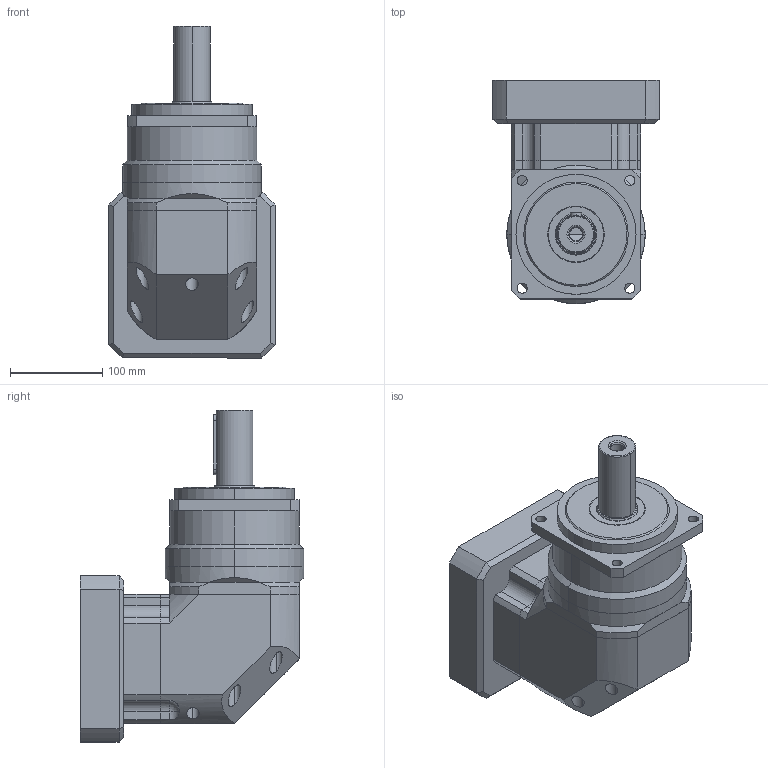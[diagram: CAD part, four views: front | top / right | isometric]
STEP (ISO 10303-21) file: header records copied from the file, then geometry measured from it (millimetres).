
FILE_DESCRIPTION (( 'STEP AP214' ), '1' );
FILE_NAME ('怍腦陔こ彸秶.STEP', '2021-01-31T15:34:52', ( '' ), ( '' ), 'SwSTEP 2.0', 'SolidWorks 2016', '' );
FILE_SCHEMA (( 'AUTOMOTIVE_DESIGN' ));
Length unit declared in the file: millimetre
Products named in the file (1): 怍腦陔こ彸秶
Bounding box: 180 x 242 x 359.5 mm (x, y, z)
Surface area: 348104.8 mm2 (no closed solid volume)
Topology: 0 solids, 20 shells, 339 faces, 1088 edges, 752 vertices
Faces by surface type: plane 146, cylinder 131, cone 36, torus 24, bspline 2
Entity records: 16606 total; most frequent: CARTESIAN_POINT 3065, DIRECTION 2166, ORIENTED_EDGE 1827, EDGE_CURVE 1082, AXIS2_PLACEMENT_3D 835, VERTEX_POINT 752, CIRCLE 497, VECTOR 496
